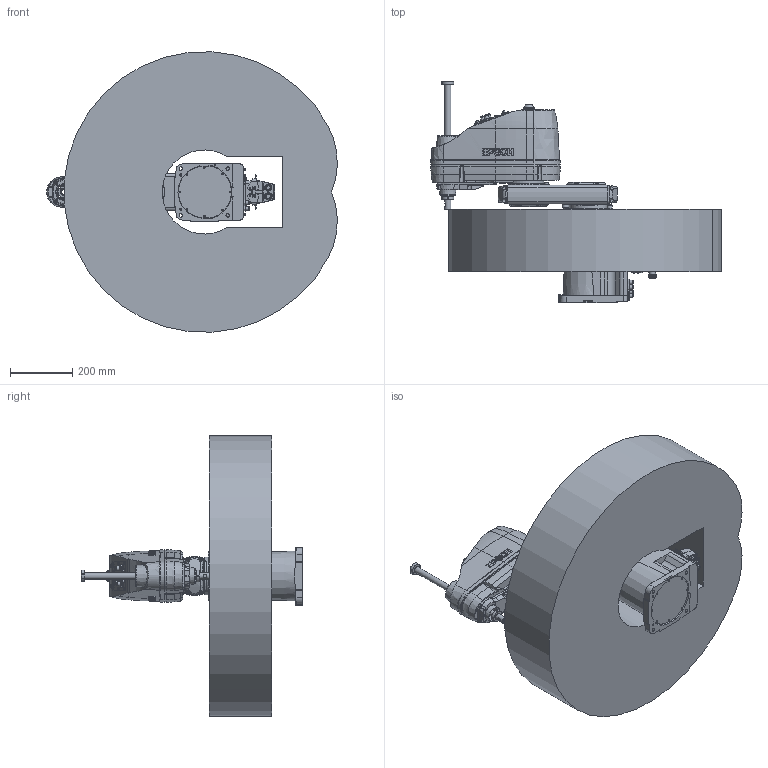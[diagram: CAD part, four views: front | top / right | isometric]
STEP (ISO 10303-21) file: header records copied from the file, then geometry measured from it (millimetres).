
FILE_DESCRIPTION( ( 'STEP AP214' ), '1' );
FILE_NAME( 'C:/Users/9607552/Desktop/GX8-B452S_langle.stp', '2023-07-07T01:52:01', ( '' ), ( '' ), ' ', 'PARTsolutions', ' ' );
FILE_SCHEMA( ( 'AUTOMOTIVE_DESIGN { 1 0 10303 214 1 1 1 1 }' ) );
Length unit declared in the file: millimetre
Products named in the file (9): GX8-B452SA-W; _B452S_BASE; _B452S; _B452S_1; _B452S_2; _B452S_J2; _B452SZA; _Angle-B; _GX8-13-B_WS
Assembly tree (10 placements, depth 2):
  GX8-B452SA-W
    _B452S_BASE
    _B452S
    _B452S_1  x2
    _B452S_2  x2
    _B452S_J2
    _B452SZA
    _Angle-B
    _GX8-13-B_WS
Bounding box: 931.38 x 709 x 898.63 mm (x, y, z)
Volume: 130246142.7 mm3; surface area: 2936471.3 mm2
Topology: 10 solids, 10 shells, 2857 faces, 6969 edges, 4547 vertices
Faces by surface type: plane 1440, cylinder 922, cone 333, torus 119, bspline 37, sphere 6
Full cylindrical faces by diameter (mm): 1 x48, 1.18 x55, 2.261 x4, 2.459 x12, 3 x32, 3.242 x18, 3.3 x5, 3.9 x4, 4 x4, 4.2 x8, 4.5 x4, 4.8 x4, 5.34 x4, 5.5 x17, 6 x1, 6.2 x4, 6.647 x4, 6.8 x2, 7 x48, 8 x5, 8.5 x4, 9 x24, 10 x18, 11 x4, 11.2 x5, 11.5 x1, 12 x5, 12.25 x1, 13 x3, 13.2 x12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
Entity records: 101913 total; most frequent: CARTESIAN_POINT 19292, DIRECTION 12595, ORIENTED_EDGE 11602, EDGE_CURVE 5801, AXIS2_PLACEMENT_3D 4838, VERTEX_POINT 4181, EDGE_LOOP 3785, FACE_OUTER_BOUND 3147
